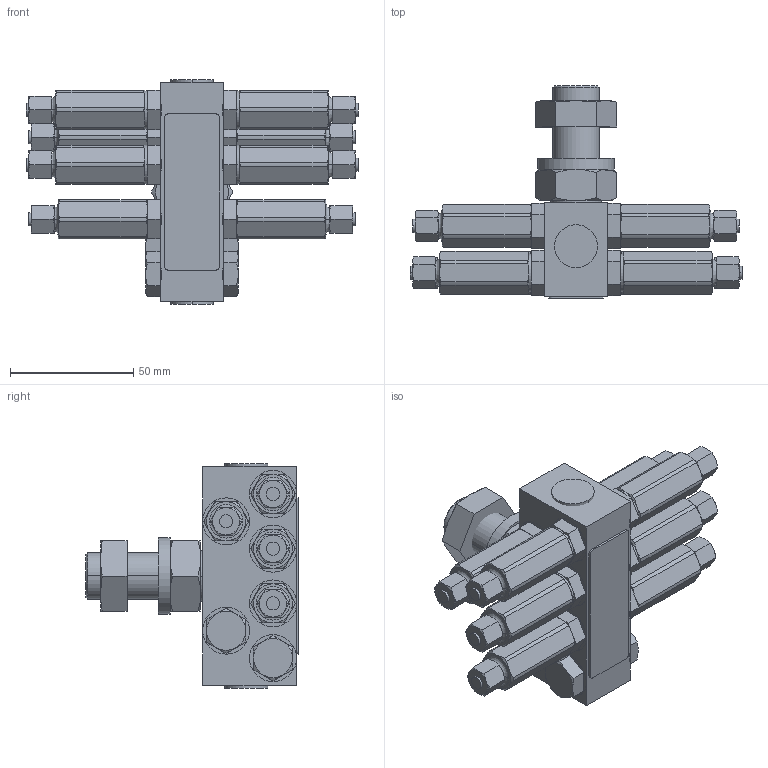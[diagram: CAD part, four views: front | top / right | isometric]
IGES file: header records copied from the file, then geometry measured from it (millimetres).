
Start section:  PTC IGES file: 25c856-en-c.igs
Global section: file name: 25c856-en-c.igs; native system: Creo Parametric by PTC Inc.; preprocessor: 2019030; author: qusrh3; organization: Unknown; date: 20191231.193402; units: inch
Bounding box: 134.87 x 86.39 x 91.34 mm (x, y, z)
Surface area: 55198.6 mm2 (no closed solid volume)
Topology: 0 solids, 0 shells, 549 faces, 2426 edges, 2414 vertices
Faces by surface type: revolution 287, bspline 262
